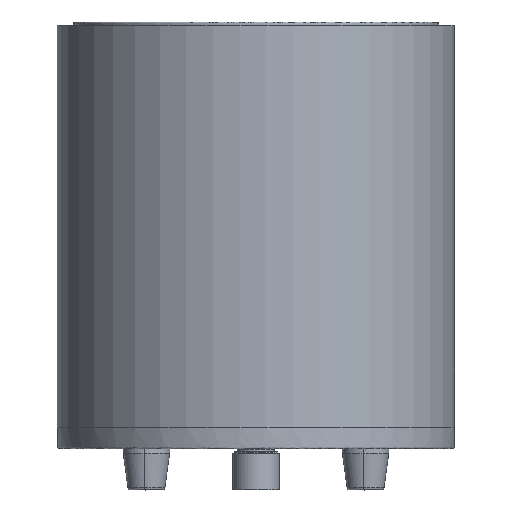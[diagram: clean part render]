
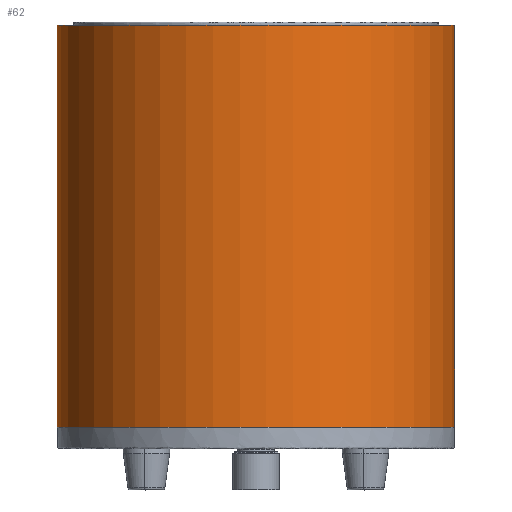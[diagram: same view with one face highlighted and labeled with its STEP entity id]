
A CAD part, front view. The second image highlights one B-rep face of the part: STEP entity #62.
In plain terms, the highlighted cylindrical face has radius 60 mm (diameter 120 mm), a partial arc.
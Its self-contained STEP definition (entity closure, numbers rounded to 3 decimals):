
#62=ADVANCED_FACE('',(#147),#1199,.T.);
#147=FACE_OUTER_BOUND('',#236,.T.);
#236=EDGE_LOOP('',(#444,#445,#446,#447));
#444=ORIENTED_EDGE('',*,*,#732,.F.);
#445=ORIENTED_EDGE('',*,*,#731,.T.);
#446=ORIENTED_EDGE('',*,*,#733,.T.);
#447=ORIENTED_EDGE('',*,*,#828,.F.);
#731=EDGE_CURVE('',#1070,#1069,#941,.T.);
#732=EDGE_CURVE('',#1070,#1127,#942,.T.);
#733=EDGE_CURVE('',#1069,#1128,#943,.T.);
#828=EDGE_CURVE('',#1127,#1128,#1012,.T.);
#941=(
BOUNDED_CURVE()
B_SPLINE_CURVE(3,(#2674,#2675,#2676,#2677),.UNSPECIFIED.,.F.,.F.)
B_SPLINE_CURVE_WITH_KNOTS((4,4),(233.887,415.387),
 .UNSPECIFIED.)
CURVE()
GEOMETRIC_REPRESENTATION_ITEM()
RATIONAL_B_SPLINE_CURVE((1.,1.,1.,1.))
REPRESENTATION_ITEM('')
);
#942=(
BOUNDED_CURVE()
B_SPLINE_CURVE(2,(#2678,#2679,#2680,#2681,#2682),.UNSPECIFIED.,.F.,.F.)
B_SPLINE_CURVE_WITH_KNOTS((3,2,3),(0.,94.248,188.496),
 .UNSPECIFIED.)
CURVE()
GEOMETRIC_REPRESENTATION_ITEM()
RATIONAL_B_SPLINE_CURVE((1.,0.707,1.,0.707,1.))
REPRESENTATION_ITEM('')
);
#943=(
BOUNDED_CURVE()
B_SPLINE_CURVE(2,(#2683,#2684,#2685,#2686,#2687),.UNSPECIFIED.,.F.,.F.)
B_SPLINE_CURVE_WITH_KNOTS((3,2,3),(0.,94.248,188.496),
 .UNSPECIFIED.)
CURVE()
GEOMETRIC_REPRESENTATION_ITEM()
RATIONAL_B_SPLINE_CURVE((1.,0.707,1.,0.707,1.))
REPRESENTATION_ITEM('')
);
#1012=(
BOUNDED_CURVE()
B_SPLINE_CURVE(3,(#3070,#3071,#3072,#3073),.UNSPECIFIED.,.F.,.F.)
B_SPLINE_CURVE_WITH_KNOTS((4,4),(201.658,383.158),
 .UNSPECIFIED.)
CURVE()
GEOMETRIC_REPRESENTATION_ITEM()
RATIONAL_B_SPLINE_CURVE((1.,1.,1.,1.))
REPRESENTATION_ITEM('')
);
#1069=VERTEX_POINT('',#2275);
#1070=VERTEX_POINT('',#2276);
#1127=VERTEX_POINT('',#2333);
#1128=VERTEX_POINT('',#2334);
#1199=CYLINDRICAL_SURFACE('',#1327,60.);
#1327=AXIS2_PLACEMENT_3D('',#1746,#1389,$);
#1389=DIRECTION('',(0.,0.,-1.));
#1746=CARTESIAN_POINT('',(-300.,0.,-59.7));
#2275=CARTESIAN_POINT('',(-240.,0.,1.));
#2276=CARTESIAN_POINT('',(-240.,0.,-120.4));
#2333=CARTESIAN_POINT('',(-360.,0.,-120.4));
#2334=CARTESIAN_POINT('',(-360.,0.,1.));
#2674=CARTESIAN_POINT('',(-240.,0.,1.));
#2675=CARTESIAN_POINT('',(-240.,0.,-39.467));
#2676=CARTESIAN_POINT('',(-240.,0.,-79.933));
#2677=CARTESIAN_POINT('',(-240.,0.,-120.4));
#2678=CARTESIAN_POINT('',(-240.,0.,-120.4));
#2679=CARTESIAN_POINT('',(-240.,-60.,-120.4));
#2680=CARTESIAN_POINT('',(-300.,-60.,-120.4));
#2681=CARTESIAN_POINT('',(-360.,-60.,-120.4));
#2682=CARTESIAN_POINT('',(-360.,0.,-120.4));
#2683=CARTESIAN_POINT('',(-240.,0.,1.));
#2684=CARTESIAN_POINT('',(-240.,-60.,1.));
#2685=CARTESIAN_POINT('',(-300.,-60.,1.));
#2686=CARTESIAN_POINT('',(-360.,-60.,1.));
#2687=CARTESIAN_POINT('',(-360.,0.,1.));
#3070=CARTESIAN_POINT('',(-360.,0.,-120.4));
#3071=CARTESIAN_POINT('',(-360.,0.,-79.933));
#3072=CARTESIAN_POINT('',(-360.,0.,-39.467));
#3073=CARTESIAN_POINT('',(-360.,0.,1.));
